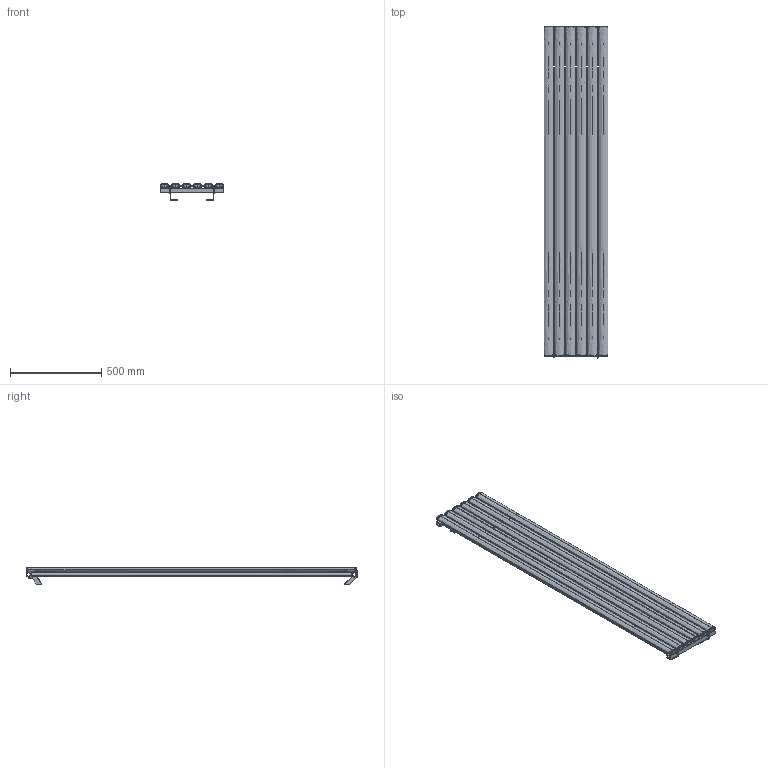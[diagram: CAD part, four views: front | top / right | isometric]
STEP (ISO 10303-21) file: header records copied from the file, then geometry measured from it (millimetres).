
FILE_DESCRIPTION (( 'STEP AP214' ), '1' );
FILE_NAME ('TALLIS.STEP', '2020-10-06T10:48:59', ( 'termosan' ), ( '' ), 'SwSTEP 2.0', 'SolidWorks 2009', '' );
FILE_SCHEMA (( 'AUTOMOTIVE_DESIGN' ));
Length unit declared in the file: millimetre
Products named in the file (9): TALLIS PRO-1800; TALLIS KAPAK; TALLIS KARE KOL-350; DOUBLE ASKI SAÐ ALT; DOUBLE ASKI SAÐ ÜST; DOUBLE ASKI SOL 郿T; DOUBLE ASKI SOL ALT; DOUBLE SAC ASKI VÝB PLASTÝÐÝ; TALLIS
Assembly tree (28 placements, depth 2):
  TALLIS
    TALLIS PRO-1800  x6
    TALLIS KAPAK  x12
    DOUBLE SAC ASKI VÝB PLASTÝÐÝ  x4
    DOUBLE ASKI SAÐ ÜST
    DOUBLE ASKI SAÐ ALT
    DOUBLE ASKI SOL 郿T
    DOUBLE ASKI SOL ALT
    TALLIS KARE KOL-350  x2
Bounding box: 350 x 1818 x 92.9 mm (x, y, z)
Volume: 3848997.2 mm3; surface area: 4490943.8 mm2
Topology: 28 solids, 28 shells, 970 faces, 2766 edges, 1828 vertices
Faces by surface type: plane 520, bspline 228, cylinder 222
Entity records: 12457 total; most frequent: CARTESIAN_POINT 5806, ORIENTED_EDGE 1372, DIRECTION 1212, EDGE_CURVE 686, VERTEX_POINT 456, LINE 440, VECTOR 440, AXIS2_PLACEMENT_3D 386
